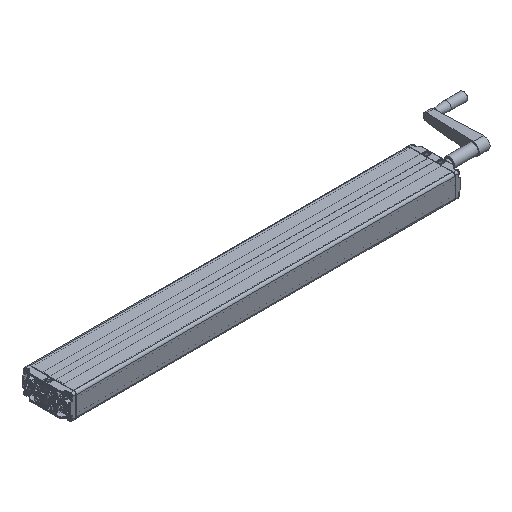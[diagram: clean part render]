
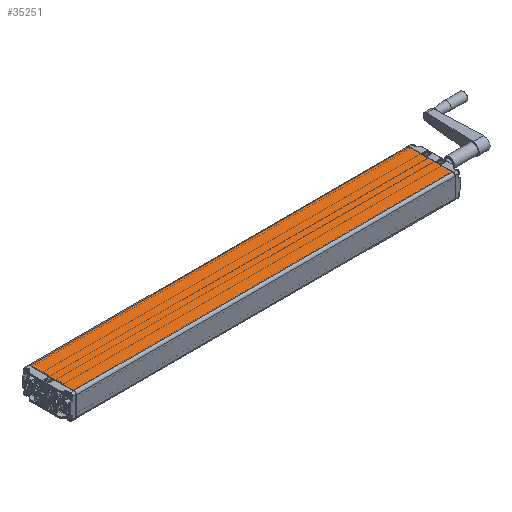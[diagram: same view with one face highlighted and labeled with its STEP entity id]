
A CAD part, isometric view. The second image highlights one B-rep face of the part: STEP entity #35251.
In plain terms, the highlighted planar face has unit normal (0, 0, 1).
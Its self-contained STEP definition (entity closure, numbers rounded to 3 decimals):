
#3668=LINE('',#75802,#5027);
#3669=LINE('',#75805,#5028);
#3670=LINE('',#75807,#5029);
#3671=LINE('',#75809,#5030);
#5027=VECTOR('',#43030,1000.);
#5028=VECTOR('',#43031,1000.);
#5029=VECTOR('',#43032,1000.);
#5030=VECTOR('',#43033,1000.);
#10637=ORIENTED_EDGE('',*,*,#16848,.T.);
#10638=ORIENTED_EDGE('',*,*,#16849,.T.);
#10639=ORIENTED_EDGE('',*,*,#16850,.T.);
#10640=ORIENTED_EDGE('',*,*,#16851,.T.);
#16848=EDGE_CURVE('',#20212,#20213,#3668,.F.);
#16849=EDGE_CURVE('',#20213,#20214,#3669,.T.);
#16850=EDGE_CURVE('',#20214,#20215,#3670,.T.);
#16851=EDGE_CURVE('',#20215,#20212,#3671,.F.);
#20212=VERTEX_POINT('',#75803);
#20213=VERTEX_POINT('',#75804);
#20214=VERTEX_POINT('',#75806);
#20215=VERTEX_POINT('',#75808);
#23883=EDGE_LOOP('',(#10637,#10638,#10639,#10640));
#25991=FACE_BOUND('',#23883,.T.);
#27177=PLANE('',#37690);
#35251=ADVANCED_FACE('',(#25991),#27177,.T.);
#37690=AXIS2_PLACEMENT_3D('',#75801,#43028,#43029);
#43028=DIRECTION('',(0.,0.,1.));
#43029=DIRECTION('',(1.,0.,0.));
#43030=DIRECTION('',(0.,-1.,0.));
#43031=DIRECTION('',(-1.,0.,0.));
#43032=DIRECTION('',(0.,-1.,0.));
#43033=DIRECTION('',(-1.,0.,0.));
#75801=CARTESIAN_POINT('',(60.,939.5,30.));
#75802=CARTESIAN_POINT('',(54.,939.5,30.));
#75803=CARTESIAN_POINT('',(54.,0.5,30.));
#75804=CARTESIAN_POINT('',(54.,939.,30.));
#75805=CARTESIAN_POINT('',(60.,939.,30.));
#75806=CARTESIAN_POINT('',(-54.,939.,30.));
#75807=CARTESIAN_POINT('',(-54.,939.5,30.));
#75808=CARTESIAN_POINT('',(-54.,0.5,30.));
#75809=CARTESIAN_POINT('',(54.,0.5,30.));
